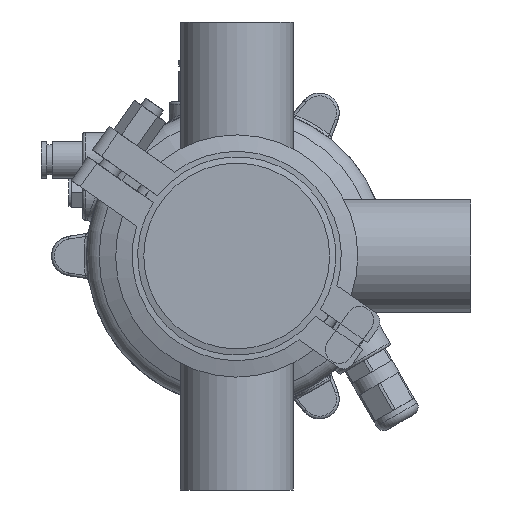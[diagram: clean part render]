
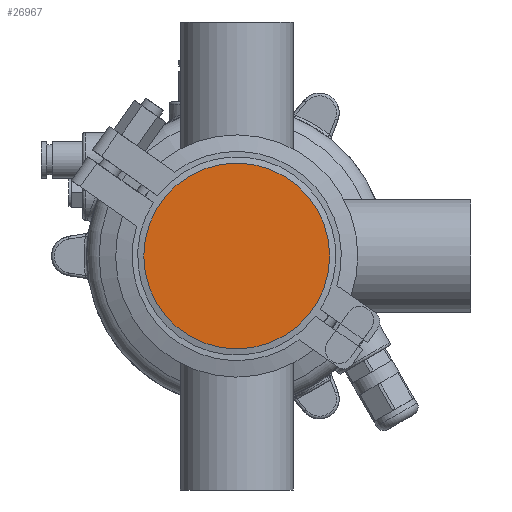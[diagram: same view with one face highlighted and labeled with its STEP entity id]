
A CAD part, front view. The second image highlights one B-rep face of the part: STEP entity #26967.
In plain terms, the highlighted planar face has unit normal (0, -1, 0).
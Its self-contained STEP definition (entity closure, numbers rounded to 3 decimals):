
#127 = FACE_OUTER_BOUND ( 'NONE', #49218, .T. ) ;
#9743 = CIRCLE ( 'NONE', #51534, 33.75 ) ;
#14781 = DIRECTION ( 'NONE',  ( 0., 0., -1. ) ) ;
#15688 = CARTESIAN_POINT ( 'NONE',  ( -33.75, 0., 0. ) ) ;
#20683 = CARTESIAN_POINT ( 'NONE',  ( 0., 0., 33.75 ) ) ;
#24681 = VERTEX_POINT ( 'NONE', #20683 ) ;
#26967 = ADVANCED_FACE ( 'NONE', ( #127 ), #38867, .T. ) ;
#30102 = EDGE_CURVE ( 'NONE', #24681, #24681, #9743, .T. ) ;
#31599 = DIRECTION ( 'NONE',  ( 0., 0., 1. ) ) ;
#37811 = ORIENTED_EDGE ( 'NONE', *, *, #30102, .F. ) ;
#38867 = PLANE ( 'NONE',  #43428 ) ;
#43428 = AXIS2_PLACEMENT_3D ( 'NONE', #15688, #51612, #14781 ) ;
#44911 = CARTESIAN_POINT ( 'NONE',  ( 0., 0., 0. ) ) ;
#49218 = EDGE_LOOP ( 'NONE', ( #37811 ) ) ;
#49805 = DIRECTION ( 'NONE',  ( 0., 1., 0. ) ) ;
#51534 = AXIS2_PLACEMENT_3D ( 'NONE', #44911, #49805, #31599 ) ;
#51612 = DIRECTION ( 'NONE',  ( 0., -1., 0. ) ) ;
